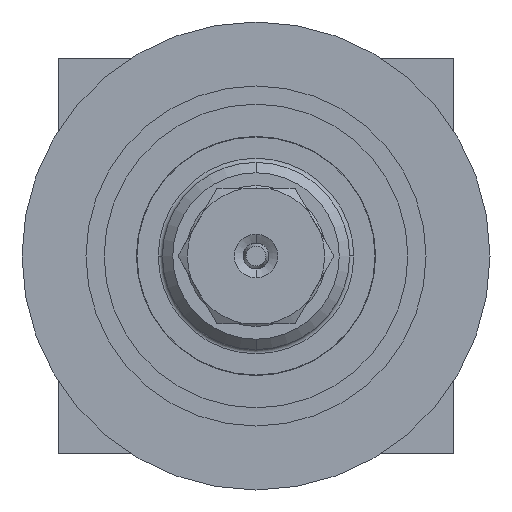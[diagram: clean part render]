
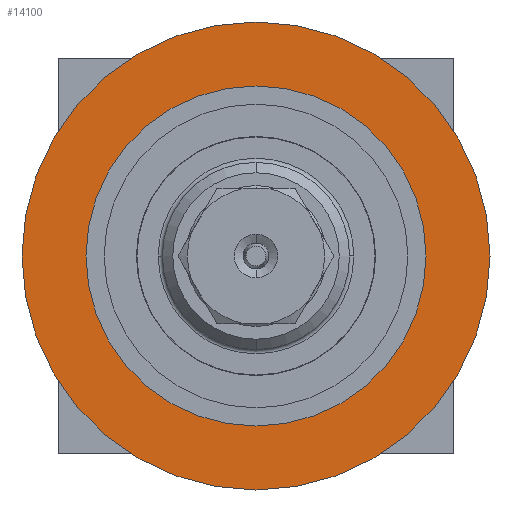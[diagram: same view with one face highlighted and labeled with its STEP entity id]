
A CAD part, left-side view. The second image highlights one B-rep face of the part: STEP entity #14100.
In plain terms, the highlighted planar face has unit normal (-1, 0, 0).
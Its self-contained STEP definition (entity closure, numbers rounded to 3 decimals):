
#306 = CARTESIAN_POINT ( 'NONE',  ( -5., 0., 22.5 ) ) ;
#1191 = FACE_OUTER_BOUND ( 'NONE', #15666, .T. ) ;
#1251 = VERTEX_POINT ( 'NONE', #306 ) ;
#1426 = VERTEX_POINT ( 'NONE', #4218 ) ;
#1989 = ORIENTED_EDGE ( 'NONE', *, *, #3671, .T. ) ;
#3659 = DIRECTION ( 'NONE',  ( 1., 0., 0. ) ) ;
#3671 = EDGE_CURVE ( 'NONE', #1426, #1251, #12347, .T. ) ;
#3677 = EDGE_CURVE ( 'NONE', #4109, #16086, #6113, .T. ) ;
#4109 = VERTEX_POINT ( 'NONE', #4394 ) ;
#4218 = CARTESIAN_POINT ( 'NONE',  ( -5., 0., -22.5 ) ) ;
#4394 = CARTESIAN_POINT ( 'NONE',  ( -5., -16.35, 0. ) ) ;
#4453 = CARTESIAN_POINT ( 'NONE',  ( -5., 16.35, 0. ) ) ;
#4533 = CARTESIAN_POINT ( 'NONE',  ( -5., 0., 0. ) ) ;
#4677 = AXIS2_PLACEMENT_3D ( 'NONE', #5368, #5304, #5263 ) ;
#4951 = FACE_BOUND ( 'NONE', #6421, .T. ) ;
#5202 = CARTESIAN_POINT ( 'NONE',  ( -5., 0., 0. ) ) ;
#5263 = DIRECTION ( 'NONE',  ( 0., -1., 0. ) ) ;
#5304 = DIRECTION ( 'NONE',  ( -1., 0., 0. ) ) ;
#5368 = CARTESIAN_POINT ( 'NONE',  ( -5., 0., 0. ) ) ;
#5401 = AXIS2_PLACEMENT_3D ( 'NONE', #11576, #3659, #12896 ) ;
#5843 = DIRECTION ( 'NONE',  ( 0., 0., 1. ) ) ;
#6113 = CIRCLE ( 'NONE', #4677, 16.35 ) ;
#6187 = PLANE ( 'NONE',  #5401 ) ;
#6421 = EDGE_LOOP ( 'NONE', ( #15645, #11922 ) ) ;
#6518 = DIRECTION ( 'NONE',  ( 0., -1., 0. ) ) ;
#6796 = DIRECTION ( 'NONE',  ( 0., 0., 1. ) ) ;
#6848 = DIRECTION ( 'NONE',  ( -1., 0., 0. ) ) ;
#6904 = CARTESIAN_POINT ( 'NONE',  ( -5., 0., 0. ) ) ;
#7355 = AXIS2_PLACEMENT_3D ( 'NONE', #4533, #13838, #5843 ) ;
#7889 = EDGE_CURVE ( 'NONE', #1251, #1426, #15685, .T. ) ;
#8832 = EDGE_CURVE ( 'NONE', #16086, #4109, #12581, .T. ) ;
#11576 = CARTESIAN_POINT ( 'NONE',  ( -5., 22.5, 0. ) ) ;
#11922 = ORIENTED_EDGE ( 'NONE', *, *, #8832, .F. ) ;
#12347 = CIRCLE ( 'NONE', #16631, 22.5 ) ;
#12581 = CIRCLE ( 'NONE', #13443, 16.35 ) ;
#12896 = DIRECTION ( 'NONE',  ( 0., 0., -1. ) ) ;
#13443 = AXIS2_PLACEMENT_3D ( 'NONE', #5202, #14542, #6518 ) ;
#13838 = DIRECTION ( 'NONE',  ( -1., 0., 0. ) ) ;
#14100 = ADVANCED_FACE ( 'NONE', ( #1191, #4951 ), #6187, .F. ) ;
#14542 = DIRECTION ( 'NONE',  ( -1., 0., 0. ) ) ;
#14712 = ORIENTED_EDGE ( 'NONE', *, *, #7889, .T. ) ;
#15645 = ORIENTED_EDGE ( 'NONE', *, *, #3677, .F. ) ;
#15666 = EDGE_LOOP ( 'NONE', ( #14712, #1989 ) ) ;
#15685 = CIRCLE ( 'NONE', #7355, 22.5 ) ;
#16086 = VERTEX_POINT ( 'NONE', #4453 ) ;
#16631 = AXIS2_PLACEMENT_3D ( 'NONE', #6904, #6848, #6796 ) ;
